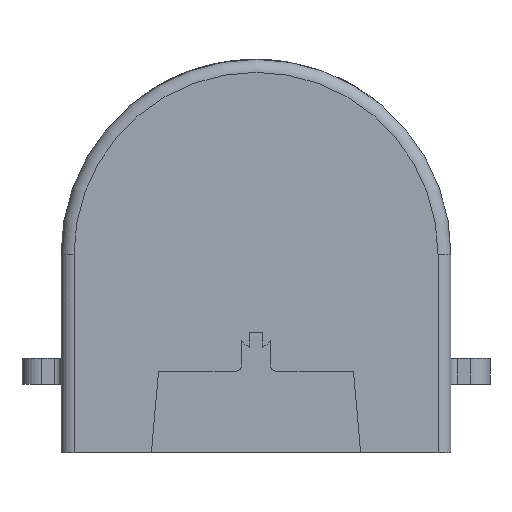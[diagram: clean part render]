
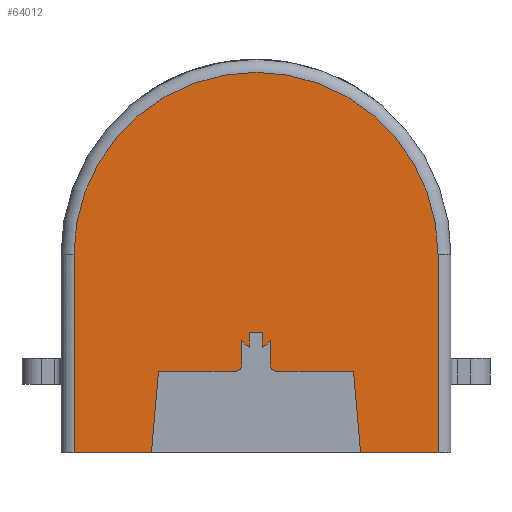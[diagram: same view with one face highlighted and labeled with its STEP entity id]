
A CAD part, front view. The second image highlights one B-rep face of the part: STEP entity #64012.
In plain terms, the highlighted planar face has unit normal (0, -1, 0).
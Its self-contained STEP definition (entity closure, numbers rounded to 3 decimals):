
#1375=CIRCLE('',#66590,1.);
#1389=CIRCLE('',#66613,1.);
#1421=CIRCLE('',#66667,28.);
#1422=CIRCLE('',#66668,2.5);
#1423=CIRCLE('',#66669,2.5);
#3047=ORIENTED_EDGE('',*,*,#16356,.T.);
#3048=ORIENTED_EDGE('',*,*,#16695,.F.);
#3049=ORIENTED_EDGE('',*,*,#16696,.T.);
#3050=ORIENTED_EDGE('',*,*,#16692,.T.);
#3051=ORIENTED_EDGE('',*,*,#16697,.T.);
#3052=ORIENTED_EDGE('',*,*,#16698,.T.);
#3053=ORIENTED_EDGE('',*,*,#16699,.T.);
#3054=ORIENTED_EDGE('',*,*,#16700,.F.);
#3055=ORIENTED_EDGE('',*,*,#16362,.T.);
#3056=ORIENTED_EDGE('',*,*,#16581,.T.);
#3057=ORIENTED_EDGE('',*,*,#16541,.T.);
#3058=ORIENTED_EDGE('',*,*,#16701,.F.);
#3059=ORIENTED_EDGE('',*,*,#16702,.T.);
#3060=ORIENTED_EDGE('',*,*,#16703,.T.);
#3061=ORIENTED_EDGE('',*,*,#16704,.T.);
#3062=ORIENTED_EDGE('',*,*,#16705,.F.);
#3063=ORIENTED_EDGE('',*,*,#16539,.T.);
#3064=ORIENTED_EDGE('',*,*,#16535,.T.);
#16356=EDGE_CURVE('',#23270,#23269,#27889,.T.);
#16362=EDGE_CURVE('',#23275,#23276,#27895,.T.);
#16535=EDGE_CURVE('',#23398,#23270,#1375,.F.);
#16539=EDGE_CURVE('',#23401,#23398,#27971,.T.);
#16541=EDGE_CURVE('',#23402,#23403,#27973,.T.);
#16581=EDGE_CURVE('',#23276,#23402,#1389,.F.);
#16692=EDGE_CURVE('',#23536,#23535,#28075,.F.);
#16695=EDGE_CURVE('',#23538,#23269,#28077,.F.);
#16696=EDGE_CURVE('',#23538,#23536,#28078,.T.);
#16697=EDGE_CURVE('',#23535,#23539,#1421,.F.);
#16698=EDGE_CURVE('',#23539,#23540,#28079,.T.);
#16699=EDGE_CURVE('',#23540,#23541,#28080,.T.);
#16700=EDGE_CURVE('',#23275,#23541,#28081,.F.);
#16701=EDGE_CURVE('',#23542,#23403,#1422,.T.);
#16702=EDGE_CURVE('',#23542,#23543,#28082,.T.);
#16703=EDGE_CURVE('',#23543,#23544,#28083,.T.);
#16704=EDGE_CURVE('',#23544,#23545,#28084,.T.);
#16705=EDGE_CURVE('',#23401,#23545,#1423,.T.);
#23269=VERTEX_POINT('',#83093);
#23270=VERTEX_POINT('',#83095);
#23275=VERTEX_POINT('',#83108);
#23276=VERTEX_POINT('',#83109);
#23398=VERTEX_POINT('',#83721);
#23401=VERTEX_POINT('',#83729);
#23402=VERTEX_POINT('',#83733);
#23403=VERTEX_POINT('',#83734);
#23535=VERTEX_POINT('',#84093);
#23536=VERTEX_POINT('',#84095);
#23538=VERTEX_POINT('',#84101);
#23539=VERTEX_POINT('',#84104);
#23540=VERTEX_POINT('',#84106);
#23541=VERTEX_POINT('',#84108);
#23542=VERTEX_POINT('',#84111);
#23543=VERTEX_POINT('',#84113);
#23544=VERTEX_POINT('',#84115);
#23545=VERTEX_POINT('',#84117);
#27889=LINE('',#83094,#33062);
#27895=LINE('',#83107,#33068);
#27971=LINE('',#83728,#33144);
#27973=LINE('',#83732,#33146);
#28075=LINE('',#84094,#33248);
#28077=LINE('',#84100,#33250);
#28078=LINE('',#84102,#33251);
#28079=LINE('',#84105,#33252);
#28080=LINE('',#84107,#33253);
#28081=LINE('',#84109,#33254);
#28082=LINE('',#84112,#33255);
#28083=LINE('',#84114,#33256);
#28084=LINE('',#84116,#33257);
#33062=VECTOR('',#70313,1000.);
#33068=VECTOR('',#70323,1000.);
#33144=VECTOR('',#70605,1000.);
#33146=VECTOR('',#70609,1000.);
#33248=VECTOR('',#70853,1000.);
#33250=VECTOR('',#70859,1000.);
#33251=VECTOR('',#70860,1000.);
#33252=VECTOR('',#70863,1000.);
#33253=VECTOR('',#70864,1000.);
#33254=VECTOR('',#70865,1000.);
#33255=VECTOR('',#70868,1000.);
#33256=VECTOR('',#70869,1000.);
#33257=VECTOR('',#70870,1000.);
#38316=EDGE_LOOP('',(#3047,#3048,#3049,#3050,#3051,#3052,#3053,#3054,#3055,
#3056,#3057,#3058,#3059,#3060,#3061,#3062,#3063,#3064));
#41305=FACE_BOUND('',#38316,.T.);
#44237=PLANE('',#66666);
#64012=ADVANCED_FACE('',(#41305),#44237,.F.);
#66590=AXIS2_PLACEMENT_3D('',#83720,#70597,#70598);
#66613=AXIS2_PLACEMENT_3D('',#83816,#70675,#70676);
#66666=AXIS2_PLACEMENT_3D('',#84099,#70857,#70858);
#66667=AXIS2_PLACEMENT_3D('',#84103,#70861,#70862);
#66668=AXIS2_PLACEMENT_3D('',#84110,#70866,#70867);
#66669=AXIS2_PLACEMENT_3D('',#84118,#70871,#70872);
#70313=DIRECTION('',(1.,0.,0.));
#70323=DIRECTION('',(1.,0.,0.));
#70597=DIRECTION('',(0.,1.,0.));
#70598=DIRECTION('',(-1.,0.,0.));
#70605=DIRECTION('',(0.,0.,-1.));
#70609=DIRECTION('',(0.,0.,1.));
#70675=DIRECTION('',(0.,1.,0.));
#70676=DIRECTION('',(-1.,0.,0.));
#70853=DIRECTION('',(0.,0.,-1.));
#70857=DIRECTION('',(0.,1.,0.));
#70858=DIRECTION('',(-1.,0.,0.));
#70859=DIRECTION('',(0.087,0.,-0.996));
#70860=DIRECTION('',(1.,0.,0.));
#70861=DIRECTION('',(0.,1.,0.));
#70862=DIRECTION('',(-1.,0.,0.));
#70863=DIRECTION('',(0.,0.,-1.));
#70864=DIRECTION('',(1.,0.,0.));
#70865=DIRECTION('',(0.087,0.,0.996));
#70866=DIRECTION('',(0.,1.,0.));
#70867=DIRECTION('',(1.,0.,0.));
#70868=DIRECTION('',(0.,0.,1.));
#70869=DIRECTION('',(1.,0.,0.));
#70870=DIRECTION('',(0.,0.,-1.));
#70871=DIRECTION('',(0.,1.,0.));
#70872=DIRECTION('',(1.,0.,0.));
#83093=CARTESIAN_POINT('',(15.,-62.5,-7.));
#83094=CARTESIAN_POINT('',(-30.,-62.5,-7.));
#83095=CARTESIAN_POINT('',(3.2,-62.5,-7.));
#83107=CARTESIAN_POINT('',(-30.,-62.5,-7.));
#83108=CARTESIAN_POINT('',(-15.,-62.5,-7.));
#83109=CARTESIAN_POINT('',(-3.2,-62.5,-7.));
#83720=CARTESIAN_POINT('',(3.2,-62.5,-6.));
#83721=CARTESIAN_POINT('',(2.2,-62.5,-6.));
#83728=CARTESIAN_POINT('',(2.2,-62.5,41.));
#83729=CARTESIAN_POINT('',(2.2,-62.5,-2.187));
#83732=CARTESIAN_POINT('',(-2.2,-62.5,41.));
#83733=CARTESIAN_POINT('',(-2.2,-62.5,-6.));
#83734=CARTESIAN_POINT('',(-2.2,-62.5,-2.187));
#83816=CARTESIAN_POINT('',(-3.2,-62.5,-6.));
#84093=CARTESIAN_POINT('',(28.,-62.5,11.));
#84094=CARTESIAN_POINT('',(28.,-62.5,41.));
#84095=CARTESIAN_POINT('',(28.,-62.5,-19.5));
#84099=CARTESIAN_POINT('',(-30.,-62.5,41.));
#84100=CARTESIAN_POINT('',(15.743,-62.5,-15.498));
#84101=CARTESIAN_POINT('',(16.094,-62.5,-19.5));
#84102=CARTESIAN_POINT('',(-30.,-62.5,-19.5));
#84103=CARTESIAN_POINT('',(0.,-62.5,11.));
#84104=CARTESIAN_POINT('',(-28.,-62.5,11.));
#84105=CARTESIAN_POINT('',(-28.,-62.5,41.));
#84106=CARTESIAN_POINT('',(-28.,-62.5,-19.5));
#84107=CARTESIAN_POINT('',(-30.,-62.5,-19.5));
#84108=CARTESIAN_POINT('',(-16.094,-62.5,-19.5));
#84109=CARTESIAN_POINT('',(-16.199,-62.5,-20.707));
#84110=CARTESIAN_POINT('',(0.,-62.5,-1.));
#84111=CARTESIAN_POINT('',(-1.,-62.5,-3.291));
#84112=CARTESIAN_POINT('',(-1.,-62.5,-1.));
#84113=CARTESIAN_POINT('',(-1.,-62.5,-1.));
#84114=CARTESIAN_POINT('',(-1.,-62.5,-1.));
#84115=CARTESIAN_POINT('',(1.,-62.5,-1.));
#84116=CARTESIAN_POINT('',(1.,-62.5,-1.));
#84117=CARTESIAN_POINT('',(1.,-62.5,-3.291));
#84118=CARTESIAN_POINT('',(0.,-62.5,-1.));
